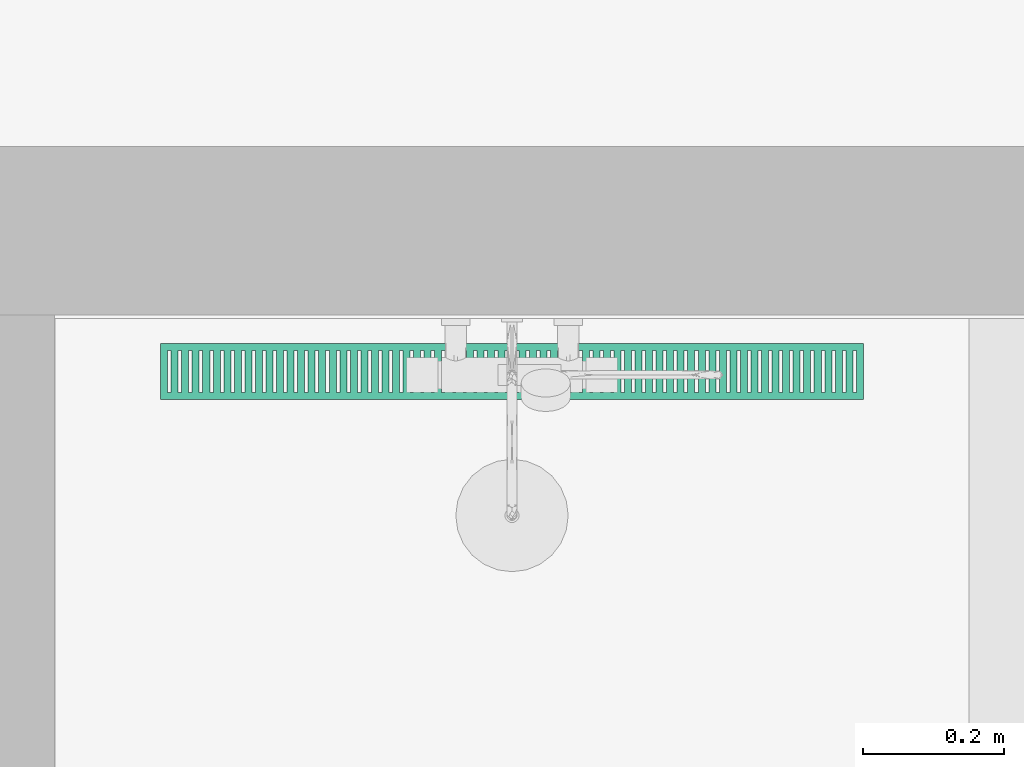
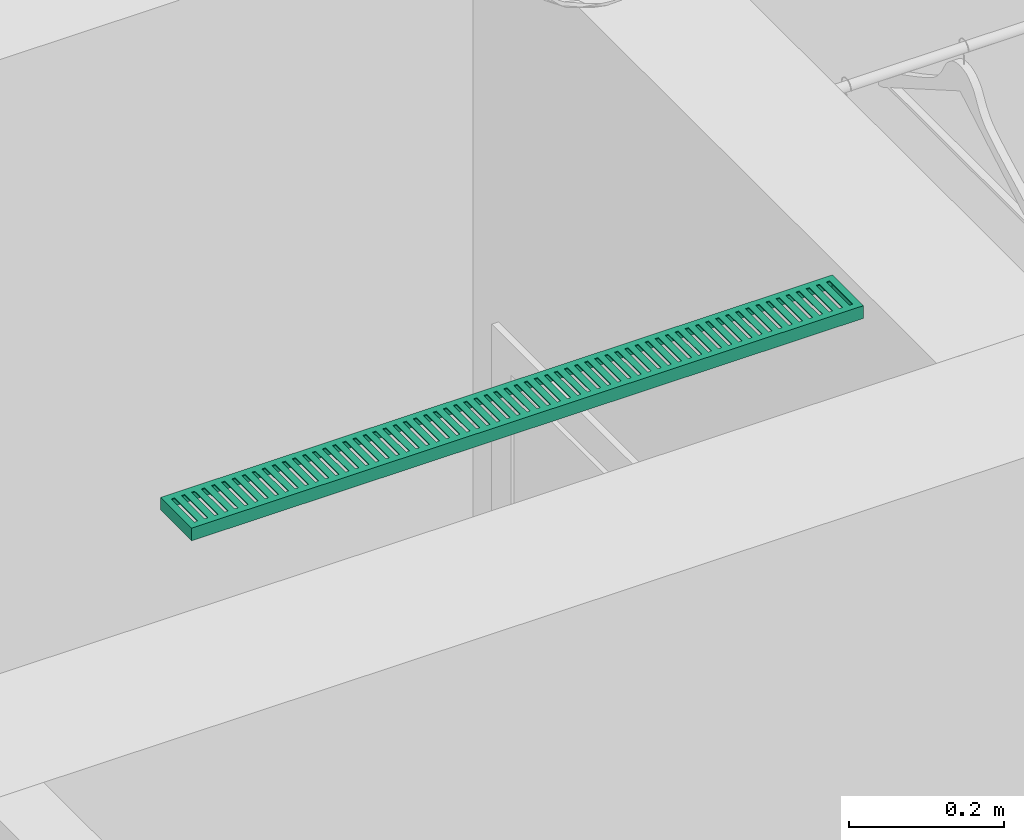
# One storey, part 16 of 68: 1 flow terminal.
"""IFC2X3 building model written with IfcOpenShell, lengths in millimetres."""

from ifc_helpers import new_model, entity, si_unit, converted_unit, direction, frame, origin, place, context, subcontext, project, spatial, faceted_brep, source, transform, mapped, material, type_object, type_shapes, element, save


model = new_model("IFC2X3")

# Units and contexts
model_context = context("Model", 3, precision=0.01, world=origin(), true_north=direction((6.123233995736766e-17, 1.0)))
plan_context = context("Plan", 3, precision=0.01, world=origin(), true_north=direction((6.123233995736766e-17, 1.0)))
body_context = subcontext(model_context, "Body", "Model", "MODEL_VIEW")
ifc_project = project(units=[si_unit("LENGTHUNIT", "METRE", prefix="MILLI"), converted_unit("PLANEANGLEUNIT", "DEGREE", entity("IfcPlaneAngleMeasure", 0.017453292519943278), si_unit("PLANEANGLEUNIT", "RADIAN"), dimensions=[0, 0, 0, 0, 0, 0, 0]), si_unit("AREAUNIT", "SQUARE_METRE")], contexts=[model_context, plan_context])

# Site, building, storey, space
site_placement = place(None, origin())
site = spatial("IfcSite", under=ifc_project, at=site_placement, Name="Default", CompositionType="ELEMENT")
building_placement = place(site_placement, origin())
building = spatial("IfcBuilding", under=site, at=building_placement, CompositionType="ELEMENT")
storey_placement = place(building_placement, frame((0.0, 0.0, 6295.0)))
storey = spatial("IfcBuildingStorey", under=building, at=storey_placement, Name="3K", CompositionType="ELEMENT", Elevation=6294.999999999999)
space_placement = place(storey_placement, origin())
space = spatial("IfcSpace", under=storey, at=space_placement, Name="3-8.6", CompositionType="ELEMENT", InteriorOrExteriorSpace="INTERNAL")

# Flow terminal
ifc_material = material(Name="<Unnamed>")
distribution_element_type = type_object("IfcDistributionElementType", Name="HR_Plumbing-fixtures_Drain_Channel_Generic_v1:Default", material=ifc_material)
shared_shape = source(origin(), body_context, "Body", "Brep", [
    faceted_brep([(500.0, 80.0, 0.0), (-500.0, 80.0, 0.0), (-500.0, 0.0, 0.0), (500.0, 0.0, 0.0), (20.0, 70.0, 0.0), (25.0, 70.0, 0.0), (25.0, 10.0, 0.0), (20.0, 10.0, 0.0), (35.0, 70.0, 0.0), (40.0, 70.0, 0.0), (40.0, 10.0, 0.0), (35.0, 10.0, 0.0), (50.0, 70.0, 0.0), (55.0, 70.0, 0.0), (55.0, 10.0, 0.0), (50.0, 10.0, 0.0), (65.0, 70.0, 0.0), (70.0, 70.0, 0.0), (70.0, 10.0, 0.0), (65.0, 10.0, 0.0), (80.0, 70.0, 0.0), (85.0, 70.0, 0.0), (85.0, 10.0, 0.0), (80.0, 10.0, 0.0), (95.0, 70.0, 0.0), (100.0, 70.0, 0.0), (100.0, 10.0, 0.0), (95.0, 10.0, 0.0), (110.0, 70.0, 0.0), (115.0, 70.0, 0.0), (115.0, 10.0, 0.0), (110.0, 10.0, 0.0), (125.0, 70.0, 0.0), (130.0, 70.0, 0.0), (130.0, 10.0, 0.0), (125.0, 10.0, 0.0), (140.0, 70.0, 0.0), (145.0, 70.0, 0.0), (145.0, 10.0, 0.0), (140.0, 10.0, 0.0), (155.0, 70.0, 0.0), (160.0, 70.0, 0.0), (160.0, 10.0, 0.0), (155.0, 10.0, 0.0), (170.0, 70.0, 0.0), (175.0, 70.0, 0.0), (175.0, 10.0, 0.0), (170.0, 10.0, 0.0), (185.0, 70.0, 0.0), (190.0, 70.0, 0.0), (190.0, 10.0, 0.0), (185.0, 10.0, 0.0), (200.0, 70.0, 0.0), (205.0, 70.0, 0.0), (205.0, 10.0, 0.0), (200.0, 10.0, 0.0), (215.0, 70.0, 0.0), (220.0, 70.0, 0.0), (220.0, 10.0, 0.0), (215.0, 10.0, 0.0), (230.0, 70.0, 0.0), (235.0, 70.0, 0.0), (235.0, 10.0, 0.0), (230.0, 10.0, 0.0), (245.0, 70.0, 0.0), (250.0, 70.0, 0.0), (250.0, 10.0, 0.0), (245.0, 10.0, 0.0), (260.0, 70.0, 0.0), (265.0, 70.0, 0.0), (265.0, 10.0, 0.0), (260.0, 10.0, 0.0), (275.0, 70.0, 0.0), (280.0, 70.0, 0.0), (280.0, 10.0, 0.0), (275.0, 10.0, 0.0), (290.0, 70.0, 0.0), (295.0, 70.0, 0.0), (295.0, 10.0, 0.0), (290.0, 10.0, 0.0), (305.0, 70.0, 0.0), (310.0, 70.0, 0.0), (310.0, 10.0, 0.0), (305.0, 10.0, 0.0), (320.0, 70.0, 0.0), (325.0, 70.0, 0.0), (325.0, 10.0, 0.0), (320.0, 10.0, 0.0), (335.0, 70.0, 0.0), (340.0, 70.0, 0.0), (340.0, 10.0, 0.0), (335.0, 10.0, 0.0), (350.0, 70.0, 0.0), (355.0, 70.0, 0.0), (355.0, 10.0, 0.0), (350.0, 10.0, 0.0), (365.0, 70.0, 0.0), (370.0, 70.0, 0.0), (370.0, 10.0, 0.0), (365.0, 10.0, 0.0), (380.0, 70.0, 0.0), (385.0, 70.0, 0.0), (385.0, 10.0, 0.0), (380.0, 10.0, 0.0), (-25.0, 70.0, 0.0), (-20.0, 70.0, 0.0), (-20.0, 10.0, 0.0), (-25.0, 10.0, 0.0), (-40.0, 70.0, 0.0), (-35.0, 70.0, 0.0), (-35.0, 10.0, 0.0), (-40.0, 10.0, 0.0), (-55.0, 70.0, 0.0), (-50.0, 70.0, 0.0), (-50.0, 10.0, 0.0), (-55.0, 10.0, 0.0), (-70.0, 70.0, 0.0), (-65.0, 70.0, 0.0), (-65.0, 10.0, 0.0), (-70.0, 10.0, 0.0), (-85.0, 70.0, 0.0), (-80.0, 70.0, 0.0), (-80.0, 10.0, 0.0), (-85.0, 10.0, 0.0), (-100.0, 70.0, 0.0), (-95.0, 70.0, 0.0), (-95.0, 10.0, 0.0), (-100.0, 10.0, 0.0), (-115.0, 70.0, 0.0), (-110.0, 70.0, 0.0), (-110.0, 10.0, 0.0), (-115.0, 10.0, 0.0), (-130.0, 70.0, 0.0), (-125.0, 70.0, 0.0), (-125.0, 10.0, 0.0), (-130.0, 10.0, 0.0), (-145.0, 70.0, 0.0), (-140.0, 70.0, 0.0), (-140.0, 10.0, 0.0), (-145.0, 10.0, 0.0), (-160.0, 70.0, 0.0), (-155.0, 70.0, 0.0), (-155.0, 10.0, 0.0), (-160.0, 10.0, 0.0), (-175.0, 70.0, 0.0), (-170.0, 70.0, 0.0), (-170.0, 10.0, 0.0), (-175.0, 10.0, 0.0), (-190.0, 70.0, 0.0), (-185.0, 70.0, 0.0), (-185.0, 10.0, 0.0), (-190.0, 10.0, 0.0), (-205.0, 70.0, 0.0), (-200.0, 70.0, 0.0), (-200.0, 10.0, 0.0), (-205.0, 10.0, 0.0), (-220.0, 70.0, 0.0), (-215.0, 70.0, 0.0), (-215.0, 10.0, 0.0), (-220.0, 10.0, 0.0), (-235.0, 70.0, 0.0), (-230.0, 70.0, 0.0), (-230.0, 10.0, 0.0), (-235.0, 10.0, 0.0), (-250.0, 70.0, 0.0), (-245.0, 70.0, 0.0), (-245.0, 10.0, 0.0), (-250.0, 10.0, 0.0), (-265.0, 70.0, 0.0), (-260.0, 70.0, 0.0), (-260.0, 10.0, 0.0), (-265.0, 10.0, 0.0), (-280.0, 70.0, 0.0), (-275.0, 70.0, 0.0), (-275.0, 10.0, 0.0), (-280.0, 10.0, 0.0), (-295.0, 70.0, 0.0), (-290.0, 70.0, 0.0), (-290.0, 10.0, 0.0), (-295.0, 10.0, 0.0), (-310.0, 70.0, 0.0), (-305.0, 70.0, 0.0), (-305.0, 10.0, 0.0), (-310.0, 10.0, 0.0), (-325.0, 70.0, 0.0), (-320.0, 70.0, 0.0), (-320.0, 10.0, 0.0), (-325.0, 10.0, 0.0), (-340.0, 70.0, 0.0), (-335.0, 70.0, 0.0), (-335.0, 10.0, 0.0), (-340.0, 10.0, 0.0), (-355.0, 70.0, 0.0), (-350.0, 70.0, 0.0), (-350.0, 10.0, 0.0), (-355.0, 10.0, 0.0), (-370.0, 70.0, 0.0), (-365.0, 70.0, 0.0), (-365.0, 10.0, 0.0), (-370.0, 10.0, 0.0), (-385.0, 70.0, 0.0), (-380.0, 70.0, 0.0), (-380.0, 10.0, 0.0), (-385.0, 10.0, 0.0), (395.0, 70.0, 0.0), (400.0, 70.0, 0.0), (400.0, 10.0, 0.0), (395.0, 10.0, 0.0), (410.0, 70.0, 0.0), (415.0, 70.0, 0.0), (415.0, 10.0, 0.0), (410.0, 10.0, 0.0), (425.0, 70.0, 0.0), (430.0, 70.0, 0.0), (430.0, 10.0, 0.0), (425.0, 10.0, 0.0), (440.0, 70.0, 0.0), (445.0, 70.0, 0.0), (445.0, 10.0, 0.0), (440.0, 10.0, 0.0), (455.0, 70.0, 0.0), (460.0, 70.0, 0.0), (460.0, 10.0, 0.0), (455.0, 10.0, 0.0), (470.0, 70.0, 0.0), (475.0, 70.0, 0.0), (475.0, 10.0, 0.0), (470.0, 10.0, 0.0), (485.0, 70.0, 0.0), (490.0, 70.0, 0.0), (490.0, 10.0, 0.0), (485.0, 10.0, 0.0), (-400.0, 70.0, 0.0), (-395.0, 70.0, 0.0), (-395.0, 10.0, 0.0), (-400.0, 10.0, 0.0), (-415.0, 70.0, 0.0), (-410.0, 70.0, 0.0), (-410.0, 10.0, 0.0), (-415.0, 10.0, 0.0), (-430.0, 70.0, 0.0), (-425.0, 70.0, 0.0), (-425.0, 10.0, 0.0), (-430.0, 10.0, 0.0), (-445.0, 70.0, 0.0), (-440.0, 70.0, 0.0), (-440.0, 10.0, 0.0), (-445.0, 10.0, 0.0), (-460.0, 70.0, 0.0), (-455.0, 70.0, 0.0), (-455.0, 10.0, 0.0), (-460.0, 10.0, 0.0), (-475.0, 70.0, 0.0), (-470.0, 70.0, 0.0), (-470.0, 10.0, 0.0), (-475.0, 10.0, 0.0), (-490.0, 70.0, 0.0), (-485.0, 70.0, 0.0), (-485.0, 10.0, 0.0), (-490.0, 10.0, 0.0), (-10.0, 70.0, 0.0), (-5.0, 70.0, 0.0), (-5.0, 10.0, 0.0), (-10.0, 10.0, 0.0), (5.0, 70.0, 0.0), (10.0, 70.0, 0.0), (10.0, 10.0, 0.0), (5.0, 10.0, 0.0), (-500.0, 80.0, -20.0), (500.0, 80.0, -20.0), (500.0, 0.0, -20.0), (-500.0, 0.0, -20.0), (498.5000000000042, 78.500000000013, -20.0), (-498.49999999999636, 78.500000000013, -20.0), (-498.49999999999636, 1.5000000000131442, -20.0), (498.5000000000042, 1.5000000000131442, -20.0), (498.5000000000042, 78.500000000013, -1.5000000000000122), (498.5000000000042, 1.5000000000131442, -1.5000000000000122), (-498.49999999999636, 1.5000000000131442, -1.5000000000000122), (-498.49999999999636, 78.500000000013, -1.5000000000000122), (25.0, 70.0, -1.5000000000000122), (20.0, 70.0, -1.5000000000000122), (20.0, 10.0, -1.5000000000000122), (25.0, 10.0, -1.5000000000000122), (40.0, 70.0, -1.5000000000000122), (35.0, 70.0, -1.5000000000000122), (35.0, 10.0, -1.5000000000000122), (40.0, 10.0, -1.5000000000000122), (55.0, 70.0, -1.5000000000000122), (50.0, 70.0, -1.5000000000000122), (50.0, 10.0, -1.5000000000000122), (55.0, 10.0, -1.5000000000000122), (70.0, 70.0, -1.5000000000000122), (65.0, 70.0, -1.5000000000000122), (65.0, 10.0, -1.5000000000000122), (70.0, 10.0, -1.5000000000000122), (85.0, 70.0, -1.5000000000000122), (80.0, 70.0, -1.5000000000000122), (80.0, 10.0, -1.5000000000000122), (85.0, 10.0, -1.5000000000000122), (100.0, 70.0, -1.5000000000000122), (95.0, 70.0, -1.5000000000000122), (95.0, 10.0, -1.5000000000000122), (100.0, 10.0, -1.5000000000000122), (115.0, 70.0, -1.5000000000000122), (110.0, 70.0, -1.5000000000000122), (110.0, 10.0, -1.5000000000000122), (115.0, 10.0, -1.5000000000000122), (130.0, 70.0, -1.5000000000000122), (125.0, 70.0, -1.5000000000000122), (125.0, 10.0, -1.5000000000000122), (130.0, 10.0, -1.5000000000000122), (145.0, 70.0, -1.5000000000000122), (140.0, 70.0, -1.5000000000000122), (140.0, 10.0, -1.5000000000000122), (145.0, 10.0, -1.5000000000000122), (160.0, 70.0, -1.5000000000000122), (155.0, 70.0, -1.5000000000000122), (155.0, 10.0, -1.5000000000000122), (160.0, 10.0, -1.5000000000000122), (175.0, 70.0, -1.5000000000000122), (170.0, 70.0, -1.5000000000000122), (170.0, 10.0, -1.5000000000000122), (175.0, 10.0, -1.5000000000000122), (190.0, 70.0, -1.5000000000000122), (185.0, 70.0, -1.5000000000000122), (185.0, 10.0, -1.5000000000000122), (190.0, 10.0, -1.5000000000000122), (205.0, 70.0, -1.5000000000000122), (200.0, 70.0, -1.5000000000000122), (200.0, 10.0, -1.5000000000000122), (205.0, 10.0, -1.5000000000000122), (220.0, 70.0, -1.5000000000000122), (215.0, 70.0, -1.5000000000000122), (215.0, 10.0, -1.5000000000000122), (220.0, 10.0, -1.5000000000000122), (235.0, 70.0, -1.5000000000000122), (230.0, 70.0, -1.5000000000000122), (230.0, 10.0, -1.5000000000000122), (235.0, 10.0, -1.5000000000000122), (250.0, 70.0, -1.5000000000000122), (245.0, 70.0, -1.5000000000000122), (245.0, 10.0, -1.5000000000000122), (250.0, 10.0, -1.5000000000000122), (265.0, 70.0, -1.5000000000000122), (260.0, 70.0, -1.5000000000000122), (260.0, 10.0, -1.5000000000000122), (265.0, 10.0, -1.5000000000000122), (280.0, 70.0, -1.5000000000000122), (275.0, 70.0, -1.5000000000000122), (275.0, 10.0, -1.5000000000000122), (280.0, 10.0, -1.5000000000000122), (295.0, 70.0, -1.5000000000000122), (290.0, 70.0, -1.5000000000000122), (290.0, 10.0, -1.5000000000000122), (295.0, 10.0, -1.5000000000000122), (310.0, 70.0, -1.5000000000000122), (305.0, 70.0, -1.5000000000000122), (305.0, 10.0, -1.5000000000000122), (310.0, 10.0, -1.5000000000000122), (325.0, 70.0, -1.5000000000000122), (320.0, 70.0, -1.5000000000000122), (320.0, 10.0, -1.5000000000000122), (325.0, 10.0, -1.5000000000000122), (340.0, 70.0, -1.5000000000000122), (335.0, 70.0, -1.5000000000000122), (335.0, 10.0, -1.5000000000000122), (340.0, 10.0, -1.5000000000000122), (355.0, 70.0, -1.5000000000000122), (350.0, 70.0, -1.5000000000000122), (350.0, 10.0, -1.5000000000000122), (355.0, 10.0, -1.5000000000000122), (370.0, 70.0, -1.5000000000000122), (365.0, 70.0, -1.5000000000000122), (365.0, 10.0, -1.5000000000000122), (370.0, 10.0, -1.5000000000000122), (385.0, 70.0, -1.5000000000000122), (380.0, 70.0, -1.5000000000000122), (380.0, 10.0, -1.5000000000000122), (385.0, 10.0, -1.5000000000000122), (-20.0, 70.0, -1.5000000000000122), (-25.0, 70.0, -1.5000000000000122), (-25.0, 10.0, -1.5000000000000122), (-20.0, 10.0, -1.5000000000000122), (-35.0, 70.0, -1.5000000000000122), (-40.0, 70.0, -1.5000000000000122), (-40.0, 10.0, -1.5000000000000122), (-35.0, 10.0, -1.5000000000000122), (-50.0, 70.0, -1.5000000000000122), (-55.0, 70.0, -1.5000000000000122), (-55.0, 10.0, -1.5000000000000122), (-50.0, 10.0, -1.5000000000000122), (-65.0, 70.0, -1.5000000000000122), (-70.0, 70.0, -1.5000000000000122), (-70.0, 10.0, -1.5000000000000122), (-65.0, 10.0, -1.5000000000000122), (-80.0, 70.0, -1.5000000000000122), (-85.0, 70.0, -1.5000000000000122), (-85.0, 10.0, -1.5000000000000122), (-80.0, 10.0, -1.5000000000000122), (-95.0, 70.0, -1.5000000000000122), (-100.0, 70.0, -1.5000000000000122), (-100.0, 10.0, -1.5000000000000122), (-95.0, 10.0, -1.5000000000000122), (-110.0, 70.0, -1.5000000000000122), (-115.0, 70.0, -1.5000000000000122), (-115.0, 10.0, -1.5000000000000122), (-110.0, 10.0, -1.5000000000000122), (-125.0, 70.0, -1.5000000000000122), (-130.0, 70.0, -1.5000000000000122), (-130.0, 10.0, -1.5000000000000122), (-125.0, 10.0, -1.5000000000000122), (-140.0, 70.0, -1.5000000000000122), (-145.0, 70.0, -1.5000000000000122), (-145.0, 10.0, -1.5000000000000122), (-140.0, 10.0, -1.5000000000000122), (-155.0, 70.0, -1.5000000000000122), (-160.0, 70.0, -1.5000000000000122), (-160.0, 10.0, -1.5000000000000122), (-155.0, 10.0, -1.5000000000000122), (-170.0, 70.0, -1.5000000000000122), (-175.0, 70.0, -1.5000000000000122), (-175.0, 10.0, -1.5000000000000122), (-170.0, 10.0, -1.5000000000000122), (-185.0, 70.0, -1.5000000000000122), (-190.0, 70.0, -1.5000000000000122), (-190.0, 10.0, -1.5000000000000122), (-185.0, 10.0, -1.5000000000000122), (-200.0, 70.0, -1.5000000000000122), (-205.0, 70.0, -1.5000000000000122), (-205.0, 10.0, -1.5000000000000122), (-200.0, 10.0, -1.5000000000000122), (-215.0, 70.0, -1.5000000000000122), (-220.0, 70.0, -1.5000000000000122), (-220.0, 10.0, -1.5000000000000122), (-215.0, 10.0, -1.5000000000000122), (-230.0, 70.0, -1.5000000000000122), (-235.0, 70.0, -1.5000000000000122), (-235.0, 10.0, -1.5000000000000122), (-230.0, 10.0, -1.5000000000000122), (-245.0, 70.0, -1.5000000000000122), (-250.0, 70.0, -1.5000000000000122), (-250.0, 10.0, -1.5000000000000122), (-245.0, 10.0, -1.5000000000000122), (-260.0, 70.0, -1.5000000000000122), (-265.0, 70.0, -1.5000000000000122), (-265.0, 10.0, -1.5000000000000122), (-260.0, 10.0, -1.5000000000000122), (-275.0, 70.0, -1.5000000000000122), (-280.0, 70.0, -1.5000000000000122), (-280.0, 10.0, -1.5000000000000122), (-275.0, 10.0, -1.5000000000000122), (-290.0, 70.0, -1.5000000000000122), (-295.0, 70.0, -1.5000000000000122), (-295.0, 10.0, -1.5000000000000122), (-290.0, 10.0, -1.5000000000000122), (-305.0, 70.0, -1.5000000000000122), (-310.0, 70.0, -1.5000000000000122), (-310.0, 10.0, -1.5000000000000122), (-305.0, 10.0, -1.5000000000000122), (-320.0, 70.0, -1.5000000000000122), (-325.0, 70.0, -1.5000000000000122), (-325.0, 10.0, -1.5000000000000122), (-320.0, 10.0, -1.5000000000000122), (-335.0, 70.0, -1.5000000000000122), (-340.0, 70.0, -1.5000000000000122), (-340.0, 10.0, -1.5000000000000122), (-335.0, 10.0, -1.5000000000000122), (-350.0, 70.0, -1.5000000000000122), (-355.0, 70.0, -1.5000000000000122), (-355.0, 10.0, -1.5000000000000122), (-350.0, 10.0, -1.5000000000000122), (-365.0, 70.0, -1.5000000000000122), (-370.0, 70.0, -1.5000000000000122), (-370.0, 10.0, -1.5000000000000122), (-365.0, 10.0, -1.5000000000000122), (-380.0, 70.0, -1.5000000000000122), (-385.0, 70.0, -1.5000000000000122), (-385.0, 10.0, -1.5000000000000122), (-380.0, 10.0, -1.5000000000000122), (400.0, 70.0, -1.5000000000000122), (395.0, 70.0, -1.5000000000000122), (395.0, 10.0, -1.5000000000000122), (400.0, 10.0, -1.5000000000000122), (415.0, 70.0, -1.5000000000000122), (410.0, 70.0, -1.5000000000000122), (410.0, 10.0, -1.5000000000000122), (415.0, 10.0, -1.5000000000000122), (430.0, 70.0, -1.5000000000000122), (425.0, 70.0, -1.5000000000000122), (425.0, 10.0, -1.5000000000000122), (430.0, 10.0, -1.5000000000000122), (445.0, 70.0, -1.5000000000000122), (440.0, 70.0, -1.5000000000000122), (440.0, 10.0, -1.5000000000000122), (445.0, 10.0, -1.5000000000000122), (460.0, 70.0, -1.5000000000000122), (455.0, 70.0, -1.5000000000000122), (455.0, 10.0, -1.5000000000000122), (460.0, 10.0, -1.5000000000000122), (475.0, 70.0, -1.5000000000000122), (470.0, 70.0, -1.5000000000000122), (470.0, 10.0, -1.5000000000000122), (475.0, 10.0, -1.5000000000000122), (490.0, 70.0, -1.5000000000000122), (485.0, 70.0, -1.5000000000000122), (485.0, 10.0, -1.5000000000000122), (490.0, 10.0, -1.5000000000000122), (-395.0, 70.0, -1.5000000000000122), (-400.0, 70.0, -1.5000000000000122), (-400.0, 10.0, -1.5000000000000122), (-395.0, 10.0, -1.5000000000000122), (-410.0, 70.0, -1.5000000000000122), (-415.0, 70.0, -1.5000000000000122), (-415.0, 10.0, -1.5000000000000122), (-410.0, 10.0, -1.5000000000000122), (-425.0, 70.0, -1.5000000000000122), (-430.0, 70.0, -1.5000000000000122), (-430.0, 10.0, -1.5000000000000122), (-425.0, 10.0, -1.5000000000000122), (-440.0, 70.0, -1.5000000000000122), (-445.0, 70.0, -1.5000000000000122), (-445.0, 10.0, -1.5000000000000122), (-440.0, 10.0, -1.5000000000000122), (-455.0, 70.0, -1.5000000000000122), (-460.0, 70.0, -1.5000000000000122), (-460.0, 10.0, -1.5000000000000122), (-455.0, 10.0, -1.5000000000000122), (-470.0, 70.0, -1.5000000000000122), (-475.0, 70.0, -1.5000000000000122), (-475.0, 10.0, -1.5000000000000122), (-470.0, 10.0, -1.5000000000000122), (-485.0, 70.0, -1.5000000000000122), (-490.0, 70.0, -1.5000000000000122), (-490.0, 10.0, -1.5000000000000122), (-485.0, 10.0, -1.5000000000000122), (-5.0, 70.0, -1.5000000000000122), (-10.0, 70.0, -1.5000000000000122), (-10.0, 10.0, -1.5000000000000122), (-5.0, 10.0, -1.5000000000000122), (10.0, 70.0, -1.5000000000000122), (5.0, 70.0, -1.5000000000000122), (5.0, 10.0, -1.5000000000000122), (10.0, 10.0, -1.5000000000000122)], [[[0, 1, 2, 3], [4, 5, 6, 7], [8, 9, 10, 11], [12, 13, 14, 15], [16, 17, 18, 19], [20, 21, 22, 23], [24, 25, 26, 27], [28, 29, 30, 31], [32, 33, 34, 35], [36, 37, 38, 39], [40, 41, 42, 43], [44, 45, 46, 47], [48, 49, 50, 51], [52, 53, 54, 55], [56, 57, 58, 59], [60, 61, 62, 63], [64, 65, 66, 67], [68, 69, 70, 71], [72, 73, 74, 75], [76, 77, 78, 79], [80, 81, 82, 83], [84, 85, 86, 87], [88, 89, 90, 91], [92, 93, 94, 95], [96, 97, 98, 99], [100, 101, 102, 103], [104, 105, 106, 107], [108, 109, 110, 111], [112, 113, 114, 115], [116, 117, 118, 119], [120, 121, 122, 123], [124, 125, 126, 127], [128, 129, 130, 131], [132, 133, 134, 135], [136, 137, 138, 139], [140, 141, 142, 143], [144, 145, 146, 147], [148, 149, 150, 151], [152, 153, 154, 155], [156, 157, 158, 159], [160, 161, 162, 163], [164, 165, 166, 167], [168, 169, 170, 171], [172, 173, 174, 175], [176, 177, 178, 179], [180, 181, 182, 183], [184, 185, 186, 187], [188, 189, 190, 191], [192, 193, 194, 195], [196, 197, 198, 199], [200, 201, 202, 203], [204, 205, 206, 207], [208, 209, 210, 211], [212, 213, 214, 215], [216, 217, 218, 219], [220, 221, 222, 223], [224, 225, 226, 227], [228, 229, 230, 231], [232, 233, 234, 235], [236, 237, 238, 239], [240, 241, 242, 243], [244, 245, 246, 247], [248, 249, 250, 251], [252, 253, 254, 255], [256, 257, 258, 259], [260, 261, 262, 263], [264, 265, 266, 267]], [[268, 269, 270, 271], [272, 273, 274, 275]], [[1, 0, 269, 268]], [[2, 1, 268, 271]], [[3, 2, 271, 270]], [[0, 3, 270, 269]], [[276, 277, 278, 279], [280, 281, 282, 283], [284, 285, 286, 287], [288, 289, 290, 291], [292, 293, 294, 295], [296, 297, 298, 299], [300, 301, 302, 303], [304, 305, 306, 307], [308, 309, 310, 311], [312, 313, 314, 315], [316, 317, 318, 319], [320, 321, 322, 323], [324, 325, 326, 327], [328, 329, 330, 331], [332, 333, 334, 335], [336, 337, 338, 339], [340, 341, 342, 343], [344, 345, 346, 347], [348, 349, 350, 351], [352, 353, 354, 355], [356, 357, 358, 359], [360, 361, 362, 363], [364, 365, 366, 367], [368, 369, 370, 371], [372, 373, 374, 375], [376, 377, 378, 379], [380, 381, 382, 383], [384, 385, 386, 387], [388, 389, 390, 391], [392, 393, 394, 395], [396, 397, 398, 399], [400, 401, 402, 403], [404, 405, 406, 407], [408, 409, 410, 411], [412, 413, 414, 415], [416, 417, 418, 419], [420, 421, 422, 423], [424, 425, 426, 427], [428, 429, 430, 431], [432, 433, 434, 435], [436, 437, 438, 439], [440, 441, 442, 443], [444, 445, 446, 447], [448, 449, 450, 451], [452, 453, 454, 455], [456, 457, 458, 459], [460, 461, 462, 463], [464, 465, 466, 467], [468, 469, 470, 471], [472, 473, 474, 475], [476, 477, 478, 479], [480, 481, 482, 483], [484, 485, 486, 487], [488, 489, 490, 491], [492, 493, 494, 495], [496, 497, 498, 499], [500, 501, 502, 503], [504, 505, 506, 507], [508, 509, 510, 511], [512, 513, 514, 515], [516, 517, 518, 519], [520, 521, 522, 523], [524, 525, 526, 527], [528, 529, 530, 531], [532, 533, 534, 535], [536, 537, 538, 539], [540, 541, 542, 543]], [[276, 279, 273, 272]], [[279, 278, 274, 273]], [[278, 277, 275, 274]], [[277, 276, 272, 275]], [[5, 4, 281, 280]], [[4, 7, 282, 281]], [[7, 6, 283, 282]], [[6, 5, 280, 283]], [[9, 8, 285, 284]], [[8, 11, 286, 285]], [[11, 10, 287, 286]], [[10, 9, 284, 287]], [[13, 12, 289, 288]], [[12, 15, 290, 289]], [[15, 14, 291, 290]], [[14, 13, 288, 291]], [[17, 16, 293, 292]], [[16, 19, 294, 293]], [[19, 18, 295, 294]], [[18, 17, 292, 295]], [[21, 20, 297, 296]], [[20, 23, 298, 297]], [[23, 22, 299, 298]], [[22, 21, 296, 299]], [[25, 24, 301, 300]], [[24, 27, 302, 301]], [[27, 26, 303, 302]], [[26, 25, 300, 303]], [[29, 28, 305, 304]], [[28, 31, 306, 305]], [[31, 30, 307, 306]], [[30, 29, 304, 307]], [[33, 32, 309, 308]], [[32, 35, 310, 309]], [[35, 34, 311, 310]], [[34, 33, 308, 311]], [[37, 36, 313, 312]], [[36, 39, 314, 313]], [[39, 38, 315, 314]], [[38, 37, 312, 315]], [[41, 40, 317, 316]], [[40, 43, 318, 317]], [[43, 42, 319, 318]], [[42, 41, 316, 319]], [[45, 44, 321, 320]], [[44, 47, 322, 321]], [[47, 46, 323, 322]], [[46, 45, 320, 323]], [[49, 48, 325, 324]], [[48, 51, 326, 325]], [[51, 50, 327, 326]], [[50, 49, 324, 327]], [[53, 52, 329, 328]], [[52, 55, 330, 329]], [[55, 54, 331, 330]], [[54, 53, 328, 331]], [[57, 56, 333, 332]], [[56, 59, 334, 333]], [[59, 58, 335, 334]], [[58, 57, 332, 335]], [[61, 60, 337, 336]], [[60, 63, 338, 337]], [[63, 62, 339, 338]], [[62, 61, 336, 339]], [[65, 64, 341, 340]], [[64, 67, 342, 341]], [[67, 66, 343, 342]], [[66, 65, 340, 343]], [[69, 68, 345, 344]], [[68, 71, 346, 345]], [[71, 70, 347, 346]], [[70, 69, 344, 347]], [[73, 72, 349, 348]], [[72, 75, 350, 349]], [[75, 74, 351, 350]], [[74, 73, 348, 351]], [[77, 76, 353, 352]], [[76, 79, 354, 353]], [[79, 78, 355, 354]], [[78, 77, 352, 355]], [[81, 80, 357, 356]], [[80, 83, 358, 357]], [[83, 82, 359, 358]], [[82, 81, 356, 359]], [[85, 84, 361, 360]], [[84, 87, 362, 361]], [[87, 86, 363, 362]], [[86, 85, 360, 363]], [[89, 88, 365, 364]], [[88, 91, 366, 365]], [[91, 90, 367, 366]], [[90, 89, 364, 367]], [[93, 92, 369, 368]], [[92, 95, 370, 369]], [[95, 94, 371, 370]], [[94, 93, 368, 371]], [[97, 96, 373, 372]], [[96, 99, 374, 373]], [[99, 98, 375, 374]], [[98, 97, 372, 375]], [[101, 100, 377, 376]], [[100, 103, 378, 377]], [[103, 102, 379, 378]], [[102, 101, 376, 379]], [[105, 104, 381, 380]], [[104, 107, 382, 381]], [[107, 106, 383, 382]], [[106, 105, 380, 383]], [[109, 108, 385, 384]], [[108, 111, 386, 385]], [[111, 110, 387, 386]], [[110, 109, 384, 387]], [[113, 112, 389, 388]], [[112, 115, 390, 389]], [[115, 114, 391, 390]], [[114, 113, 388, 391]], [[117, 116, 393, 392]], [[116, 119, 394, 393]], [[119, 118, 395, 394]], [[118, 117, 392, 395]], [[121, 120, 397, 396]], [[120, 123, 398, 397]], [[123, 122, 399, 398]], [[122, 121, 396, 399]], [[125, 124, 401, 400]], [[124, 127, 402, 401]], [[127, 126, 403, 402]], [[126, 125, 400, 403]], [[129, 128, 405, 404]], [[128, 131, 406, 405]], [[131, 130, 407, 406]], [[130, 129, 404, 407]], [[133, 132, 409, 408]], [[132, 135, 410, 409]], [[135, 134, 411, 410]], [[134, 133, 408, 411]], [[137, 136, 413, 412]], [[136, 139, 414, 413]], [[139, 138, 415, 414]], [[138, 137, 412, 415]], [[141, 140, 417, 416]], [[140, 143, 418, 417]], [[143, 142, 419, 418]], [[142, 141, 416, 419]], [[145, 144, 421, 420]], [[144, 147, 422, 421]], [[147, 146, 423, 422]], [[146, 145, 420, 423]], [[149, 148, 425, 424]], [[148, 151, 426, 425]], [[151, 150, 427, 426]], [[150, 149, 424, 427]], [[153, 152, 429, 428]], [[152, 155, 430, 429]], [[155, 154, 431, 430]], [[154, 153, 428, 431]], [[157, 156, 433, 432]], [[156, 159, 434, 433]], [[159, 158, 435, 434]], [[158, 157, 432, 435]], [[161, 160, 437, 436]], [[160, 163, 438, 437]], [[163, 162, 439, 438]], [[162, 161, 436, 439]], [[165, 164, 441, 440]], [[164, 167, 442, 441]], [[167, 166, 443, 442]], [[166, 165, 440, 443]], [[169, 168, 445, 444]], [[168, 171, 446, 445]], [[171, 170, 447, 446]], [[170, 169, 444, 447]], [[173, 172, 449, 448]], [[172, 175, 450, 449]], [[175, 174, 451, 450]], [[174, 173, 448, 451]], [[177, 176, 453, 452]], [[176, 179, 454, 453]], [[179, 178, 455, 454]], [[178, 177, 452, 455]], [[181, 180, 457, 456]], [[180, 183, 458, 457]], [[183, 182, 459, 458]], [[182, 181, 456, 459]], [[185, 184, 461, 460]], [[184, 187, 462, 461]], [[187, 186, 463, 462]], [[186, 185, 460, 463]], [[189, 188, 465, 464]], [[188, 191, 466, 465]], [[191, 190, 467, 466]], [[190, 189, 464, 467]], [[193, 192, 469, 468]], [[192, 195, 470, 469]], [[195, 194, 471, 470]], [[194, 193, 468, 471]], [[197, 196, 473, 472]], [[196, 199, 474, 473]], [[199, 198, 475, 474]], [[198, 197, 472, 475]], [[201, 200, 477, 476]], [[200, 203, 478, 477]], [[203, 202, 479, 478]], [[202, 201, 476, 479]], [[205, 204, 481, 480]], [[204, 207, 482, 481]], [[207, 206, 483, 482]], [[206, 205, 480, 483]], [[209, 208, 485, 484]], [[208, 211, 486, 485]], [[211, 210, 487, 486]], [[210, 209, 484, 487]], [[213, 212, 489, 488]], [[212, 215, 490, 489]], [[215, 214, 491, 490]], [[214, 213, 488, 491]], [[217, 216, 493, 492]], [[216, 219, 494, 493]], [[219, 218, 495, 494]], [[218, 217, 492, 495]], [[221, 220, 497, 496]], [[220, 223, 498, 497]], [[223, 222, 499, 498]], [[222, 221, 496, 499]], [[225, 224, 501, 500]], [[224, 227, 502, 501]], [[227, 226, 503, 502]], [[226, 225, 500, 503]], [[229, 228, 505, 504]], [[228, 231, 506, 505]], [[231, 230, 507, 506]], [[230, 229, 504, 507]], [[233, 232, 509, 508]], [[232, 235, 510, 509]], [[235, 234, 511, 510]], [[234, 233, 508, 511]], [[237, 236, 513, 512]], [[236, 239, 514, 513]], [[239, 238, 515, 514]], [[238, 237, 512, 515]], [[241, 240, 517, 516]], [[240, 243, 518, 517]], [[243, 242, 519, 518]], [[242, 241, 516, 519]], [[245, 244, 521, 520]], [[244, 247, 522, 521]], [[247, 246, 523, 522]], [[246, 245, 520, 523]], [[249, 248, 525, 524]], [[248, 251, 526, 525]], [[251, 250, 527, 526]], [[250, 249, 524, 527]], [[253, 252, 529, 528]], [[252, 255, 530, 529]], [[255, 254, 531, 530]], [[254, 253, 528, 531]], [[257, 256, 533, 532]], [[256, 259, 534, 533]], [[259, 258, 535, 534]], [[258, 257, 532, 535]], [[261, 260, 537, 536]], [[260, 263, 538, 537]], [[263, 262, 539, 538]], [[262, 261, 536, 539]], [[265, 264, 541, 540]], [[264, 267, 542, 541]], [[267, 266, 543, 542]], [[266, 265, 540, 543]]]),
])
type_shapes(distribution_element_type, [shared_shape])
flow_terminal_placement = place(space_placement, frame((9132.999996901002, 6364.999959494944, 3170.000076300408), z_axis=(0.0, 0.0, 1.0), x_axis=(-1.0, 0.0, 0.0)))
element("IfcFlowTerminal", 1, at=flow_terminal_placement, inside=space, type_object=distribution_element_type, material=ifc_material, Name="HR_Plumbing-fixtures_Drain_Channel_Generic_v1:Default", ObjectType="HR_Plumbing-fixtures_Drain_Channel_Generic_v1:Default", context=body_context, shape_type="MappedRepresentation", body=[
    mapped(shared_shape, transform((0.0, 0.0, 0.0), scale=1.0)),
])

save(model, "model.ifc")
